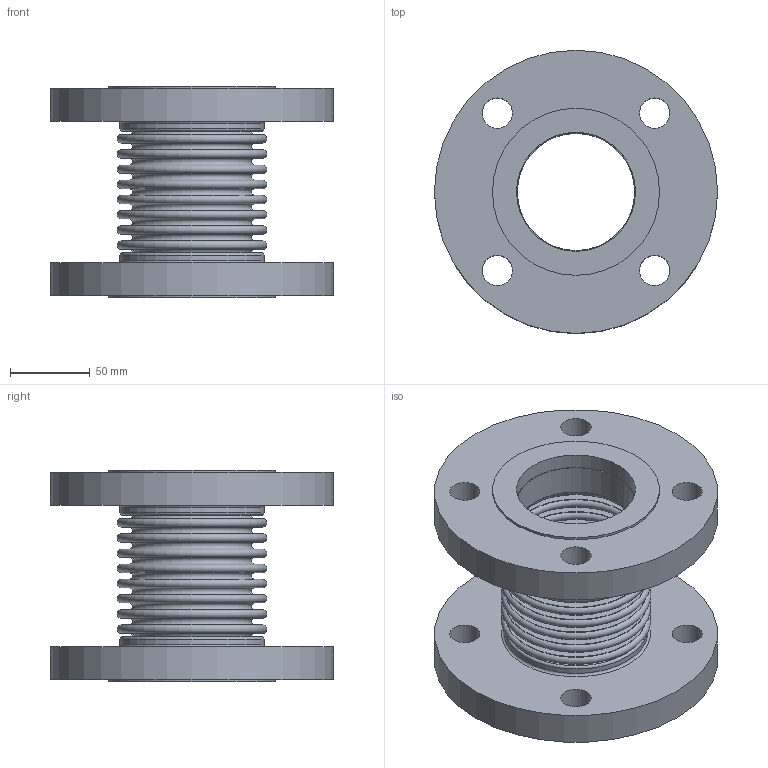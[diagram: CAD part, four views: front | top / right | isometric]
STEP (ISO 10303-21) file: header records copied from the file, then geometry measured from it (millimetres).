
FILE_DESCRIPTION(/* description */ ('EXPANSION JOINT,SINGLE, FLANGED ENDS,2 1/2 INCH NOMINAL','CAx-IF Rec.Pracs.---Representation and Presentation of Product Manufacturing Information (PMI)---4.0---2014-10-13'),/* implementation_level */ '2;1');
FILE_NAME(/* name */ 'US-02.5-8-85S-FLANGED ENDS.stp',/* time_stamp */ '2026-07-31T18:04:28-05:00',/* author */ ('Guadalupe'),/* organization */ (''),/* preprocessor_version */ 'ST-DEVELOPER v20.1',/* originating_system */ 'Autodesk Inventor 2026',/* authorisation */ '');
FILE_SCHEMA (('AP242_MANAGED_MODEL_BASED_3D_ENGINEERING_MIM_LF { 1 0 10303 442 2 1 4 }'));
Length unit declared in the file: inch
Products named in the file (3): 02.5-85S; 02.5-85S-02; 02.5-85S-01
Assembly tree (3 placements, depth 2):
  02.5-85S
    02.5-85S-02  x2
    02.5-85S-01
Bounding box: 177.8 x 177.8 x 133.1 mm (x, y, z)
Volume: 861433.3 mm3; surface area: 250335.8 mm2
Topology: 5 solids, 5 shells, 104 faces, 174 edges, 116 vertices
Faces by surface type: plane 46, torus 38, cylinder 20
Full cylindrical faces by diameter (mm): 19.05 x8, 73.66 x2, 74.574 x2, 74.676 x2, 90.424 x2, 104.902 x2, 177.8 x2
Entity records: 2402 total; most frequent: DIRECTION 494, CARTESIAN_POINT 353, ORIENTED_EDGE 288, AXIS2_PLACEMENT_3D 241, EDGE_CURVE 144, EDGE_LOOP 140, CIRCLE 132, VERTEX_POINT 96
